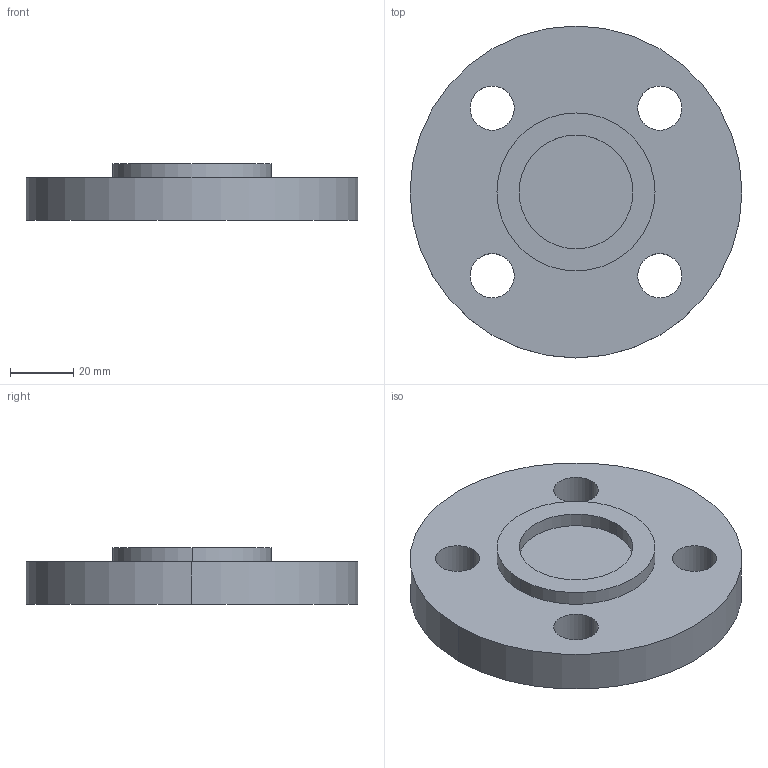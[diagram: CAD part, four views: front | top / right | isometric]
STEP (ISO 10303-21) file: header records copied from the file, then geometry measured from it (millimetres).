
FILE_DESCRIPTION (( 'STEP AP214' ), '1' );
FILE_NAME ('PN40 DN20 Type 05 - Type C Face.STEP', '2018-12-29T18:24:33', ( '' ), ( '' ), 'SwSTEP 2.0', 'SolidWorks 2019', '' );
FILE_SCHEMA (( 'AUTOMOTIVE_DESIGN' ));
Length unit declared in the file: millimetre
Products named in the file (1): PN40 DN20 Type 05 - Type C Face
Bounding box: 105 x 105 x 18 mm (x, y, z)
Volume: 112839.3 mm3; surface area: 24130.6 mm2
Topology: 1 solids, 1 shells, 18 faces, 42 edges, 28 vertices
Faces by surface type: cylinder 14, plane 4
Entity records: 584 total; most frequent: DIRECTION 108, CARTESIAN_POINT 89, ORIENTED_EDGE 84, AXIS2_PLACEMENT_3D 47, EDGE_CURVE 42, EDGE_LOOP 28, CIRCLE 28, VERTEX_POINT 28
